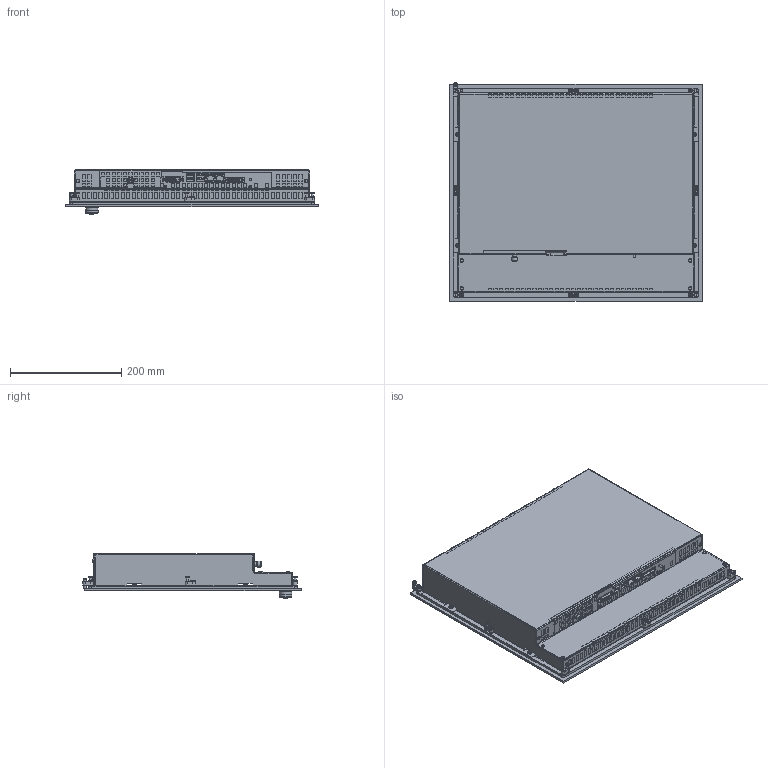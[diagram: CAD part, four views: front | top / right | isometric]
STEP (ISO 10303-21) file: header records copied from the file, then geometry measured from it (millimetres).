
FILE_DESCRIPTION(/* description */ (''),/* implementation_level */ '2;1');
FILE_NAME(/* name */ 'X:\0-inventor\0-3d-Teile\PC-Compo\solids\CP67xx\0-Ausgabe\CP6703-0020-0021-0040.stp',/* time_stamp */ '2015-12-21T16:44:38+01:00',/* author */ ('ChristianKreuzer'),/* organization */ ('Design-AG'),/* preprocessor_version */ 'ST-DEVELOPER v16.1',/* originating_system */ 'Autodesk Inventor 2016',/* authorisation */ '');
FILE_SCHEMA (('AUTOMOTIVE_DESIGN { 1 0 10303 214 3 1 1 }'));
Products named in the file (1): CP6703-0020-0021-0040-Step
Bounding box: 455 x 393 x 80.2 mm (x, y, z)
Volume: 1331201 mm3; surface area: 891959.9 mm2
Topology: 6 solids, 15 shells, 3173 faces, 8191 edges, 5377 vertices
Faces by surface type: plane 2479, cylinder 459, cone 118, torus 63, bspline 48, sphere 6
Full cylindrical faces by diameter (mm): 1.752 x2, 2.4 x2, 2.459 x2, 3 x2, 3.141 x8, 4 x25, 4.2 x1, 4.5 x16, 5.5 x8, 6.5 x9, 7 x9, 7.5 x1, 8.5 x8, 10.8 x1, 18.5 x1, 20 x1, 22.4 x1, 22.5 x1, 23 x1
Entity records: 98581 total; most frequent: CARTESIAN_POINT 18523, ORIENTED_EDGE 15896, DIRECTION 15078, EDGE_CURVE 7945, LINE 6424, VECTOR 6424, VERTEX_POINT 5305, AXIS2_PLACEMENT_3D 4327
